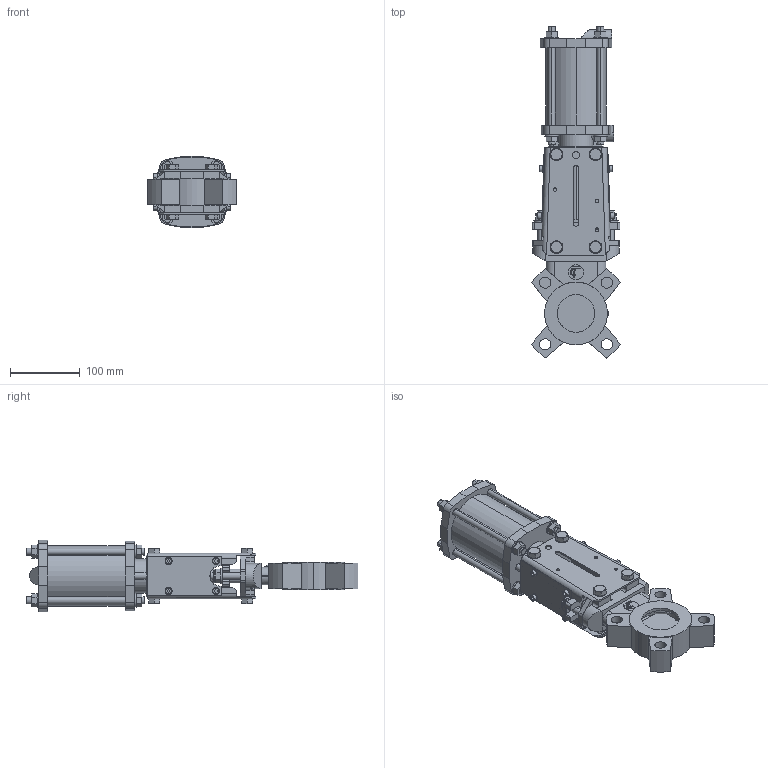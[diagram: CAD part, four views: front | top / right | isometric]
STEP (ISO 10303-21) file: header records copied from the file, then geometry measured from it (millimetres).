
FILE_DESCRIPTION (( 'STEP AP203' ), '1' );
FILE_NAME ('VG P DN50.STEP', '2010-01-26T07:22:04', ( 'farex' ), ( '' ), 'SwSTEP 2.0', 'SolidWorks 2009', '' );
FILE_SCHEMA (( 'CONFIG_CONTROL_DESIGN' ));
Length unit declared in the file: millimetre
Products named in the file (1): VG P DN50
Bounding box: 127.6 x 475.8 x 102 mm (x, y, z)
Volume: 1267602.4 mm3; surface area: 344455.6 mm2
Topology: 3 solids, 22 shells, 1004 faces, 2515 edges, 1649 vertices
Faces by surface type: plane 545, cylinder 339, cone 81, bspline 33, torus 6
Entity records: 35924 total; most frequent: CARTESIAN_POINT 11677, ORIENTED_EDGE 5030, DIRECTION 4924, EDGE_CURVE 2515, AXIS2_PLACEMENT_3D 1738, VERTEX_POINT 1649, VECTOR 1448, LINE 1448
